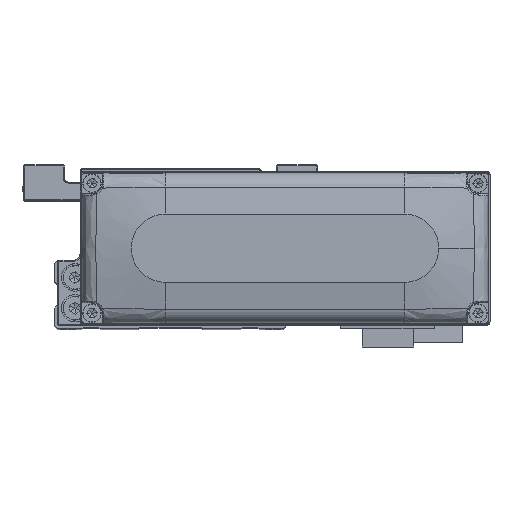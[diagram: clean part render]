
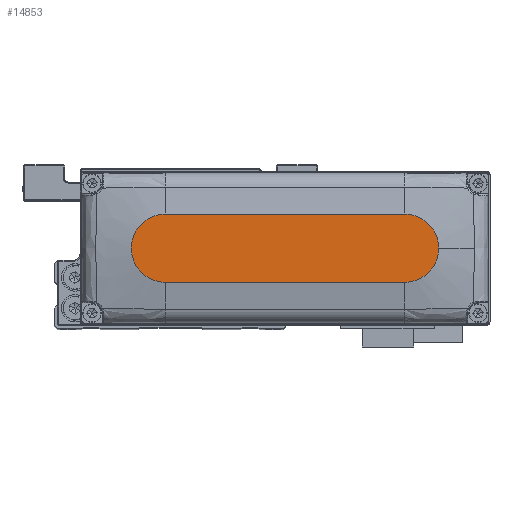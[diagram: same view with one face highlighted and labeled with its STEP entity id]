
A CAD part, top view. The second image highlights one B-rep face of the part: STEP entity #14853.
In plain terms, the highlighted planar face has unit normal (0, 0, 1).
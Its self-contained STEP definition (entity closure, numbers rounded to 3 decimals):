
#632 = VERTEX_POINT ( 'NONE', #17771 ) ;
#1342 = CARTESIAN_POINT ( 'NONE',  ( 35., 0., 28. ) ) ;
#1620 = DIRECTION ( 'NONE',  ( 1., 0., 0. ) ) ;
#2147 = EDGE_CURVE ( 'NONE', #17959, #632, #8535, .T. ) ;
#4000 = CIRCLE ( 'NONE', #25199, 10. ) ;
#4579 = DIRECTION ( 'NONE',  ( 0., 0., 1. ) ) ;
#5658 = ORIENTED_EDGE ( 'NONE', *, *, #31682, .T. ) ;
#6064 = AXIS2_PLACEMENT_3D ( 'NONE', #30573, #4579, #16146 ) ;
#7013 = ORIENTED_EDGE ( 'NONE', *, *, #15271, .T. ) ;
#7390 = LINE ( 'NONE', #18952, #18013 ) ;
#7436 = FACE_OUTER_BOUND ( 'NONE', #21334, .T. ) ;
#7648 = ORIENTED_EDGE ( 'NONE', *, *, #37351, .T. ) ;
#8535 = CIRCLE ( 'NONE', #29721, 10. ) ;
#9810 = DIRECTION ( 'NONE',  ( 1., 0., 0. ) ) ;
#10278 = LINE ( 'NONE', #21826, #14855 ) ;
#10882 = EDGE_CURVE ( 'NONE', #36725, #31661, #4000, .T. ) ;
#12295 = ORIENTED_EDGE ( 'NONE', *, *, #2147, .T. ) ;
#12932 = DIRECTION ( 'NONE',  ( 0., 0., 1. ) ) ;
#13697 = ORIENTED_EDGE ( 'NONE', *, *, #10882, .T. ) ;
#14853 = ADVANCED_FACE ( 'NONE', ( #7436 ), #18997, .T. ) ;
#14855 = VECTOR ( 'NONE', #33426, 1000. ) ;
#15024 = CARTESIAN_POINT ( 'NONE',  ( 35., 10., 28. ) ) ;
#15271 = EDGE_CURVE ( 'NONE', #28064, #17959, #7390, .T. ) ;
#16040 = CARTESIAN_POINT ( 'NONE',  ( -35., 0., 28. ) ) ;
#16146 = DIRECTION ( 'NONE',  ( 1., 0., 0. ) ) ;
#17771 = CARTESIAN_POINT ( 'NONE',  ( -35., -10., 28. ) ) ;
#17959 = VERTEX_POINT ( 'NONE', #26908 ) ;
#18013 = VECTOR ( 'NONE', #30529, 1000. ) ;
#18663 = AXIS2_PLACEMENT_3D ( 'NONE', #1342, #12932, #24482 ) ;
#18952 = CARTESIAN_POINT ( 'NONE',  ( -35., 10., 28. ) ) ;
#18997 = PLANE ( 'NONE',  #6064 ) ;
#20545 = CARTESIAN_POINT ( 'NONE',  ( 35., -10., 28. ) ) ;
#21334 = EDGE_LOOP ( 'NONE', ( #7013, #12295, #5658, #13697, #7648 ) ) ;
#21826 = CARTESIAN_POINT ( 'NONE',  ( -35., -10., 28. ) ) ;
#24211 = CARTESIAN_POINT ( 'NONE',  ( 35., 0., 28. ) ) ;
#24482 = DIRECTION ( 'NONE',  ( 1., 0., 0. ) ) ;
#25199 = AXIS2_PLACEMENT_3D ( 'NONE', #24211, #35785, #9810 ) ;
#26908 = CARTESIAN_POINT ( 'NONE',  ( -35., 10., 28. ) ) ;
#27546 = CARTESIAN_POINT ( 'NONE',  ( 45., 0., 28. ) ) ;
#27604 = DIRECTION ( 'NONE',  ( 0., 0., 1. ) ) ;
#28064 = VERTEX_POINT ( 'NONE', #15024 ) ;
#29721 = AXIS2_PLACEMENT_3D ( 'NONE', #16040, #27604, #1620 ) ;
#30529 = DIRECTION ( 'NONE',  ( -1., 0., 0. ) ) ;
#30573 = CARTESIAN_POINT ( 'NONE',  ( 0., 0., 28. ) ) ;
#31661 = VERTEX_POINT ( 'NONE', #27546 ) ;
#31682 = EDGE_CURVE ( 'NONE', #632, #36725, #10278, .T. ) ;
#33426 = DIRECTION ( 'NONE',  ( 1., 0., 0. ) ) ;
#35039 = CIRCLE ( 'NONE', #18663, 10. ) ;
#35785 = DIRECTION ( 'NONE',  ( 0., 0., 1. ) ) ;
#36725 = VERTEX_POINT ( 'NONE', #20545 ) ;
#37351 = EDGE_CURVE ( 'NONE', #31661, #28064, #35039, .T. ) ;
